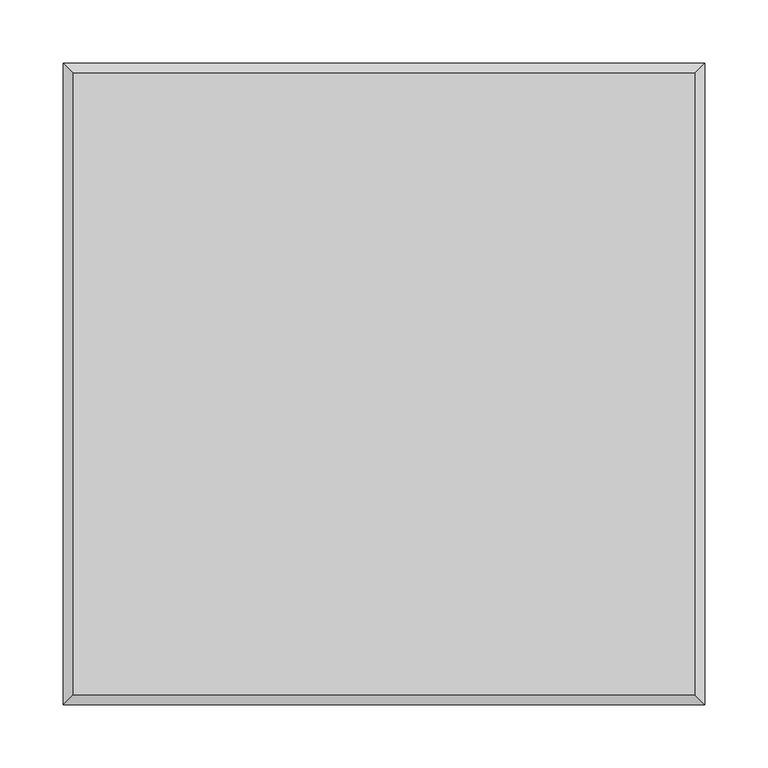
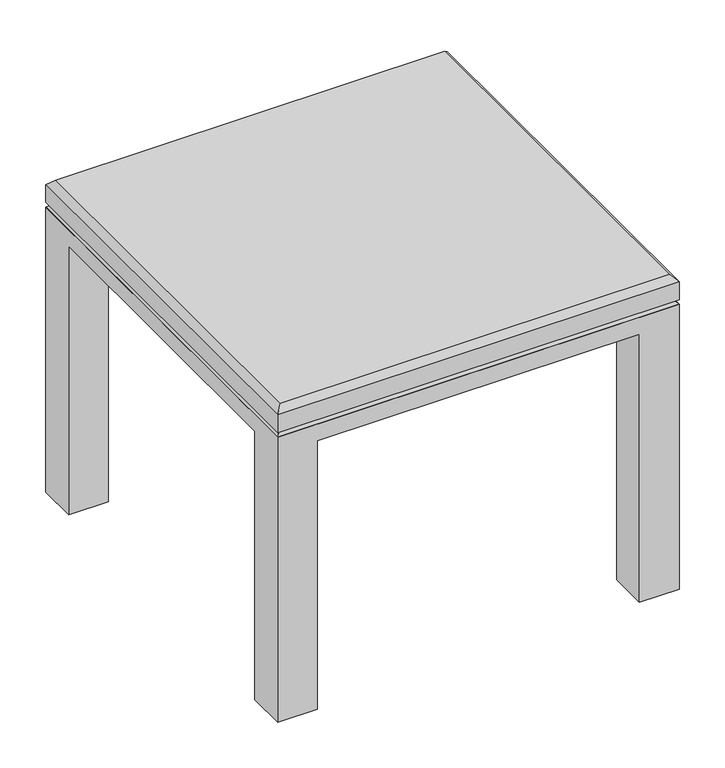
"""IFC4 building model written with IfcOpenShell, lengths in millimetres: furniture geometry, Steelcase Coalesse - Swathmore Plus - Beveled : 20D x 20W x 16 1/2H - Glass Top."""

from ifc_helpers import new_model, si_unit, origin, place, context, project, spatial, faceted_brep, source, transform, mapped, element, save


def furniture_cea75027(model_context):
    return source(origin(), model_context, "Body", "Brep", [
        faceted_brep([(508.0, 0.0, 381.0), (0.0, 0.0, 381.0), (0.0, -508.0, 381.0), (508.0, -508.0, 381.0), (508.0, -50.1297163, 358.7750121), (508.0, -458.1013016, 358.7750121), (457.8734085, -458.1013016, 358.7750121), (457.8734085, -457.8702837, 358.7750121), (501.6498062, -457.8702837, 358.7750121), (501.6498062, -50.1297163, 358.7750121), (457.8734085, -508.0, 358.7750121), (50.1812393, -508.0, 358.7750121), (50.1812393, -458.1013016, 358.7750121), (0.0, -458.1013016, 358.7750121), (0.0, -50.1297163, 358.7750121), (6.3501938, -50.1297163, 358.7750121), (6.3501938, -457.8702837, 358.7750121), (50.8001938, -457.8702837, 358.7750121), (50.8001938, -501.6496318, 358.7750121), (457.8734085, -501.6496318, 358.7750121), (50.1812393, 0.0, 358.7750121), (457.8734085, 0.0, 358.7750121), (457.8734085, -6.3503682, 358.7750121), (50.8001938, -6.3503682, 358.7750121), (50.8001938, -50.1297163, 358.7750121), (50.1812393, -50.1297163, 358.7750121), (508.0, 0.0, 0.0), (457.8734085, 0.0, 0.0), (50.1812393, 0.0, 0.0), (0.0, 0.0, 0.0), (0.0, -50.1297163, 0.0), (0.0, -458.1013016, 0.0), (0.0, -508.0, 0.0), (50.1812393, -508.0, 0.0), (457.8734085, -508.0, 0.0), (508.0, -508.0, 0.0), (508.0, -458.1013016, 0.0), (508.0, -50.1297163, 0.0), (50.1812393, -50.1297163, 0.0), (50.1812393, -458.1013016, 0.0), (457.8734085, -50.1297163, 0.0), (457.8734085, -458.1013016, 0.0), (50.1812393, -458.1013016, 336.5499879), (457.8734085, -50.1297163, 336.5499879), (457.8734085, -28.575, 336.5499879), (479.425, -50.1297163, 336.5499879), (457.8734085, -458.1013016, 336.5499879), (457.8734085, -479.425, 336.5499879), (50.7998062, -50.8000242, 336.5499879), (50.7998062, -28.575, 336.5499879), (479.425, -458.1013016, 336.5499879), (50.1812393, -479.425, 336.5499879), (50.1812393, -458.1013016, 336.5499879), (28.5708422, -458.1013016, 336.5499879), (28.5708422, -50.8000242, 336.5499879)], [[[0, 1, 2, 3]], [[4, 5, 6, 7, 8, 9]], [[10, 11, 12, 13, 14, 15, 16, 17, 18, 19]], [[20, 21, 22, 23, 24, 25]], [[1, 0, 26, 27, 21, 20, 28, 29]], [[2, 1, 29, 30, 14, 13, 31, 32]], [[3, 2, 32, 33, 11, 10, 34, 35]], [[0, 3, 35, 36, 5, 4, 37, 26]], [[28, 38, 30, 29]], [[33, 32, 31, 39]], [[26, 37, 40, 27]], [[36, 35, 34, 41]], [[30, 38, 25, 15, 14]], [[38, 28, 20, 25]], [[33, 39, 42, 12, 11]], [[39, 31, 13, 12, 42]], [[27, 40, 43, 44, 22, 21]], [[40, 37, 4, 9, 45, 43]], [[36, 41, 46, 6, 5]], [[41, 34, 10, 19, 47, 46]], [[48, 49, 44, 43, 45, 50, 46, 47, 51, 52, 53, 54]], [[48, 54, 15, 25, 24]], [[54, 53, 16, 15]], [[53, 52, 17, 16]], [[52, 51, 18, 17]], [[51, 47, 19, 18]], [[46, 7, 6]], [[46, 50, 8, 7]], [[50, 45, 9, 8]], [[44, 49, 23, 22]], [[49, 48, 24, 23]]]),
        faceted_brep([(508.0, -508.0, 411.1625121), (508.0, -508.0, 387.3500121), (508.0, 0.0, 387.3500121), (508.0, 0.0, 411.1625121), (0.0, 0.0, 411.1625121), (0.0, 0.0, 387.3500121), (0.0, -508.0, 387.3500121), (0.0, -508.0, 411.1625121), (500.0626938, -7.9375242, 419.1), (7.9373062, -7.9375242, 419.1), (7.9373062, -500.0625484, 419.1), (500.0626938, -500.0625484, 419.1)], [[[0, 1, 2, 3]], [[4, 5, 6, 7]], [[1, 0, 7, 6]], [[2, 1, 6, 5]], [[3, 2, 5, 4]], [[8, 9, 10, 11]], [[8, 11, 0, 3]], [[11, 10, 7, 0]], [[10, 9, 4, 7]], [[9, 8, 3, 4]]]),
        faceted_brep([(508.0, 0.0, 381.0), (508.0, -508.0, 381.0), (0.0, -508.0, 381.0), (0.0, 0.0, 381.0), (501.6498062, -6.3499758, 387.3500121), (6.3501938, -6.3499758, 387.3500121), (6.3501938, -501.6496318, 387.3500121), (501.6498062, -501.6496318, 387.3500121)], [[[0, 1, 2, 3]], [[4, 5, 6, 7]], [[4, 7, 1, 0]], [[7, 6, 2, 1]], [[6, 5, 3, 2]], [[5, 4, 0, 3]]]),
    ])


if __name__ == "__main__":
    model = new_model("IFC4")
    model_context = context("Model", 3, world=origin())
    ifc_project = project(units=[si_unit("LENGTHUNIT", "METRE", prefix="MILLI")], contexts=[model_context])
    site = spatial("IfcSite", under=ifc_project)
    building = spatial("IfcBuilding", under=site)
    placement = place(None, origin())
    furniture_shape = furniture_cea75027(model_context)
    element("IfcFurniture", 1, ObjectType="Steelcase Coalesse - Swathmore Plus - Beveled : 20D x 20W x 16 1/2H - Glass Top", at=placement, inside=building, context=model_context, shape_type="MappedRepresentation", body=[
        mapped(furniture_shape, transform((0.0, 0.0, 0.0), x_axis=(1.0, 0.0, 0.0), y_axis=(0.0, 1.0, 0.0), z_axis=(0.0, 0.0, 1.0))),
    ])
    save(model, "model.ifc")
